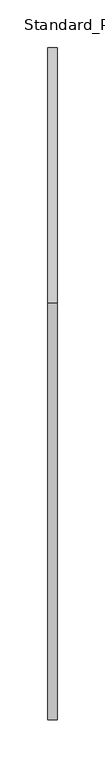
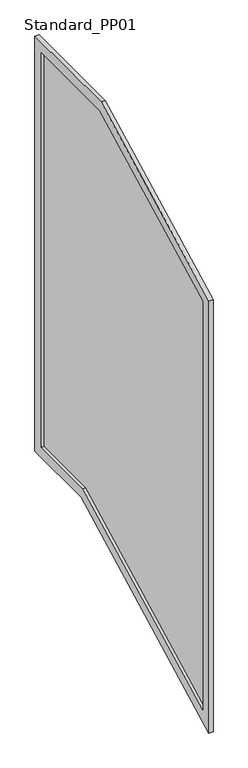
"""IFC4 building model written with IfcOpenShell, lengths in millimetres: railing geometry, Baluster-Landing-Panel-VIVA-STRUC-Lower : Standard_PP01."""

from ifc_helpers import new_model, si_unit, frame, origin, place, context, project, spatial, polyline, outline, extrude, source, transform, mapped, element, save


def standard_pp01_0638d6a2(model_context):
    return source(origin(), model_context, "Body", "SweptSolid", [
        extrude(outline(polyline([(508.8760777, -65.0027399), (25.4, -316.6844557), (25.4, 689.579329), (441.4187834, 906.145), (676.4363344, 906.145), (676.4363344, -65.0027399), (508.8760777, -65.0027399)])), frame((14.2584857, 0.0, 0.0), z_axis=(1.0, 0.0, 0.0), x_axis=(0.0, 1.0, 0.0)), (0.0, 0.0, 1.0), 2.9972),
        extrude(outline(polyline([(0.0, -358.5423602), (0.0, 704.9924273), (435.2034429, 931.545), (701.8363344, 931.545), (701.8363344, -90.4027399), (515.0914182, -90.4027399), (0.0, -358.5423602)]), holes=[polyline([(676.4363344, 906.145), (441.4187834, 906.145), (25.4, 689.579329), (25.4, -316.6844557), (508.8760777, -65.0027399), (676.4363344, -65.0027399), (676.4363344, 906.145)])]), frame((7.6036857, 0.0, 0.0), z_axis=(1.0, 0.0, 0.0), x_axis=(0.0, 1.0, 0.0)), (0.0, 0.0, 1.0), 9.652),
    ])


if __name__ == "__main__":
    model = new_model("IFC4")
    model_context = context("Model", 3, world=origin())
    ifc_project = project(units=[si_unit("LENGTHUNIT", "METRE", prefix="MILLI")], contexts=[model_context])
    site = spatial("IfcSite", under=ifc_project)
    building = spatial("IfcBuilding", under=site)
    placement = place(None, origin())
    standard_pp01_shape = standard_pp01_0638d6a2(model_context)
    element("IfcRailing", 1, ObjectType="Baluster-Landing-Panel-VIVA-STRUC-Lower : Standard_PP01", at=placement, inside=building, context=model_context, shape_type="MappedRepresentation", body=[
        mapped(standard_pp01_shape, transform((0.0, 0.0, 0.0), x_axis=(1.0, 0.0, 0.0), y_axis=(0.0, 1.0, 0.0), z_axis=(0.0, 0.0, 1.0))),
    ])
    save(model, "model.ifc")
